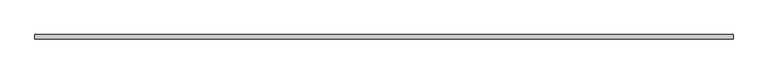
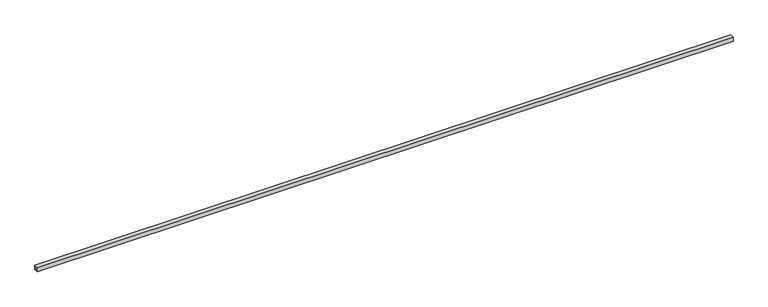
"""IFC4 building model written with IfcOpenShell, lengths in millimetres: unitary equipment geometry, NLRS_52_ME_UN_Geberit Pluvia montagerail_PRO_103890 : 362.863.26.1 Geberit Pluvia montagerail."""

from ifc_helpers import new_model, si_unit, frame, origin, place, context, project, spatial, polyline, outline, extrude, source, transform, mapped, element, save


def unitary_equipment_9a035344(model_context):
    return source(origin(), model_context, "Body", "SweptSolid", [
        extrude(outline(polyline([(15.0, 0.0), (15.0, -30.0), (-15.0, -30.0), (-15.0, 0.0), (15.0, 0.0)]), holes=[polyline([(-13.0, -28.0), (13.0, -28.0), (13.0, -2.0), (-13.0, -2.0), (-13.0, -28.0)])]), frame((0.0, 0.0, 0.0), z_axis=(1.0, 0.0, 0.0), x_axis=(0.0, 1.0, 0.0)), (0.0, 0.0, 1.0), 5000.0),
    ])


if __name__ == "__main__":
    model = new_model("IFC4")
    model_context = context("Model", 3, world=origin())
    ifc_project = project(units=[si_unit("LENGTHUNIT", "METRE", prefix="MILLI")], contexts=[model_context])
    site = spatial("IfcSite", under=ifc_project)
    building = spatial("IfcBuilding", under=site)
    placement = place(None, origin())
    unitary_equipment_shape = unitary_equipment_9a035344(model_context)
    element("IfcUnitaryEquipment", 1, ObjectType="NLRS_52_ME_UN_Geberit Pluvia montagerail_PRO_103890 : 362.863.26.1 Geberit Pluvia montagerail", at=placement, inside=building, context=model_context, shape_type="MappedRepresentation", body=[
        mapped(unitary_equipment_shape, transform((0.0, 0.0, 0.0), x_axis=(1.0, 0.0, 0.0), y_axis=(0.0, 1.0, 0.0), z_axis=(0.0, 0.0, 1.0))),
    ])
    save(model, "model.ifc")
